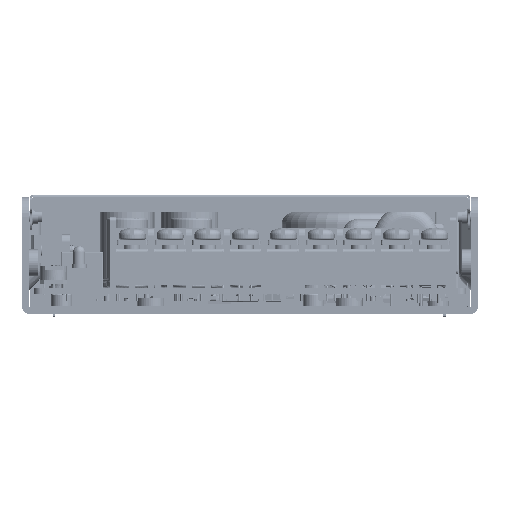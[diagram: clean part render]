
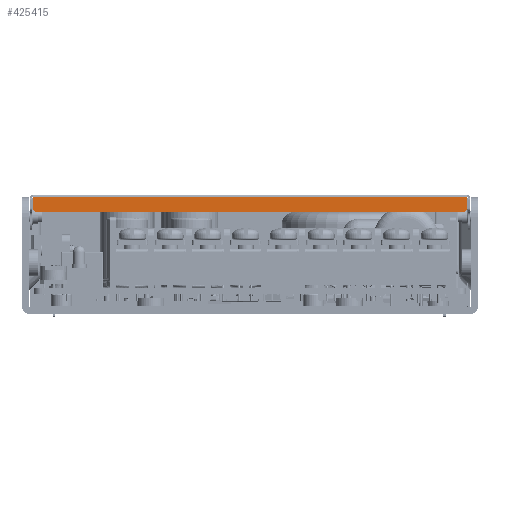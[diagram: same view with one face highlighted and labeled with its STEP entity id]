
A CAD part, left-side view. The second image highlights one B-rep face of the part: STEP entity #425415.
In plain terms, the highlighted planar face has unit normal (-1, 0, 0) as drawn and (0, -1, 0) by its records, which use the part's own axes.
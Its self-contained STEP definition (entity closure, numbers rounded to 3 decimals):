
#425336=DIRECTION('',(0.,0.,1.));
#425337=VECTOR('',#425336,2.7);
#425338=CARTESIAN_POINT('',(-54.8,-97.4,-2.7));
#425339=LINE('',#425338,#425337);
#425343=DIRECTION('',(1.,0.,0.));
#425344=VECTOR('',#425343,109.6);
#425345=CARTESIAN_POINT('',(-54.8,-97.4,0.));
#425346=LINE('',#425345,#425344);
#425350=DIRECTION('',(0.,0.,-1.));
#425351=VECTOR('',#425350,2.7);
#425352=CARTESIAN_POINT('',(54.8,-97.4,0.));
#425353=LINE('',#425352,#425351);
#425357=CARTESIAN_POINT('',(54.8,-97.4,-2.7));
#425358=CARTESIAN_POINT('',(54.8,-97.4,-2.828));
#425359=CARTESIAN_POINT('',(54.75,-97.4,-3.069));
#425360=CARTESIAN_POINT('',(54.528,-97.4,-3.435));
#425361=CARTESIAN_POINT('',(54.161,-97.4,-3.652));
#425362=CARTESIAN_POINT('',(53.925,-97.4,-3.7));
#425363=CARTESIAN_POINT('',(53.8,-97.4,-3.7));
#425368=DIRECTION('',(-1.,0.,0.));
#425369=VECTOR('',#425368,107.6);
#425370=CARTESIAN_POINT('',(53.8,-97.4,-3.7));
#425371=LINE('',#425370,#425369);
#425375=CARTESIAN_POINT('',(-53.8,-97.4,-3.7));
#425376=CARTESIAN_POINT('',(-53.928,-97.4,-3.7));
#425377=CARTESIAN_POINT('',(-54.169,-97.4,-3.65));
#425378=CARTESIAN_POINT('',(-54.535,-97.4,-3.428));
#425379=CARTESIAN_POINT('',(-54.752,-97.4,-3.061));
#425380=CARTESIAN_POINT('',(-54.8,-97.4,-2.825));
#425381=CARTESIAN_POINT('',(-54.8,-97.4,-2.7));
#425386=CARTESIAN_POINT('',(-54.8,-97.4,0.));
#425387=CARTESIAN_POINT('',(-54.8,-97.4,-2.7));
#425388=VERTEX_POINT('',#425386);
#425389=VERTEX_POINT('',#425387);
#425390=VERTEX_POINT('',#425375);
#425391=CARTESIAN_POINT('',(53.8,-97.4,-3.7));
#425392=VERTEX_POINT('',#425391);
#425393=VERTEX_POINT('',#425357);
#425394=CARTESIAN_POINT('',(54.8,-97.4,0.));
#425395=VERTEX_POINT('',#425394);
#425396=CARTESIAN_POINT('',(0.,-97.4,-1.85));
#425397=DIRECTION('',(0.,1.,0.));
#425398=DIRECTION('',(0.,0.,-1.));
#425399=AXIS2_PLACEMENT_3D('',#425396,#425397,#425398);
#425400=PLANE('',#425399);
#425402=ORIENTED_EDGE('',*,*,#425401,.T.);
#425404=ORIENTED_EDGE('',*,*,#425403,.T.);
#425406=ORIENTED_EDGE('',*,*,#425405,.T.);
#425408=ORIENTED_EDGE('',*,*,#425407,.T.);
#425410=ORIENTED_EDGE('',*,*,#425409,.T.);
#425412=ORIENTED_EDGE('',*,*,#425411,.T.);
#425413=EDGE_LOOP('',(#425402,#425404,#425406,#425408,#425410,#425412));
#425414=FACE_OUTER_BOUND('',#425413,.F.);
#425415=ADVANCED_FACE('',(#425414),#425400,.F.);
#425364=B_SPLINE_CURVE_WITH_KNOTS('',3,(#425357,#425358,#425359,#425360,#425361,
#425362,#425363),.UNSPECIFIED.,.F.,.F.,(4,1,1,1,4),(0.,0.25,0.5,0.75,
1.),.UNSPECIFIED.);
#425382=B_SPLINE_CURVE_WITH_KNOTS('',3,(#425375,#425376,#425377,#425378,#425379,
#425380,#425381),.UNSPECIFIED.,.F.,.F.,(4,1,1,1,4),(0.,0.25,0.5,0.75,
1.),.UNSPECIFIED.);
#425401=EDGE_CURVE('',#425389,#425388,#425339,.T.);
#425403=EDGE_CURVE('',#425388,#425395,#425346,.T.);
#425405=EDGE_CURVE('',#425395,#425393,#425353,.T.);
#425407=EDGE_CURVE('',#425393,#425392,#425364,.T.);
#425409=EDGE_CURVE('',#425392,#425390,#425371,.T.);
#425411=EDGE_CURVE('',#425390,#425389,#425382,.T.);
